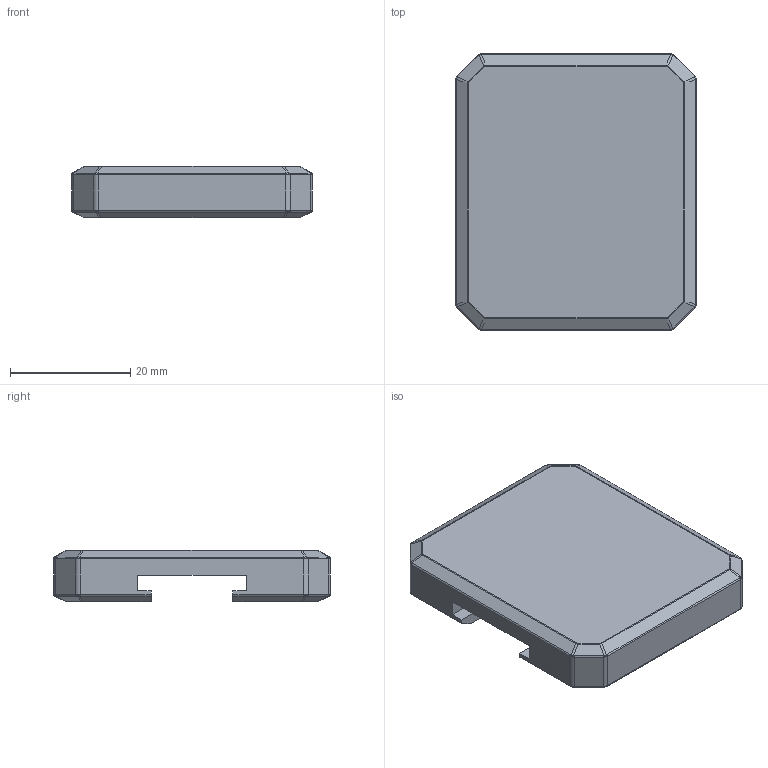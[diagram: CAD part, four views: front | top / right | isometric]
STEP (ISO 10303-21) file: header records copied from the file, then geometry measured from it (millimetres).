
FILE_DESCRIPTION(/* description */ (''),/* implementation_level */ '2;1');
FILE_NAME(/* name */ '万能挂件',/* time_stamp */ '2023-02-14T16:49:40+08:00',/* author */ (''),/* organization */ (''),/* preprocessor_version */ 'ST-DEVELOPER v16.5',/* originating_system */ '',/* authorisation */ '');
FILE_SCHEMA (('CONFIG_CONTROL_DESIGN'));
Length unit declared in the file: millimetre
Products named in the file (1): Document
Bounding box: 40 x 46 x 8.5 mm (x, y, z)
Volume: 12192.6 mm3; surface area: 5293.6 mm2
Topology: 1 solids, 1 shells, 160 faces, 378 edges, 220 vertices
Faces by surface type: bspline 82, cylinder 60, plane 18
Entity records: 4578 total; most frequent: CARTESIAN_POINT 2336, ORIENTED_EDGE 756, EDGE_CURVE 378, VERTEX_POINT 220, ADVANCED_FACE 160, FACE_OUTER_BOUND 160, EDGE_LOOP 160, DIRECTION 82
